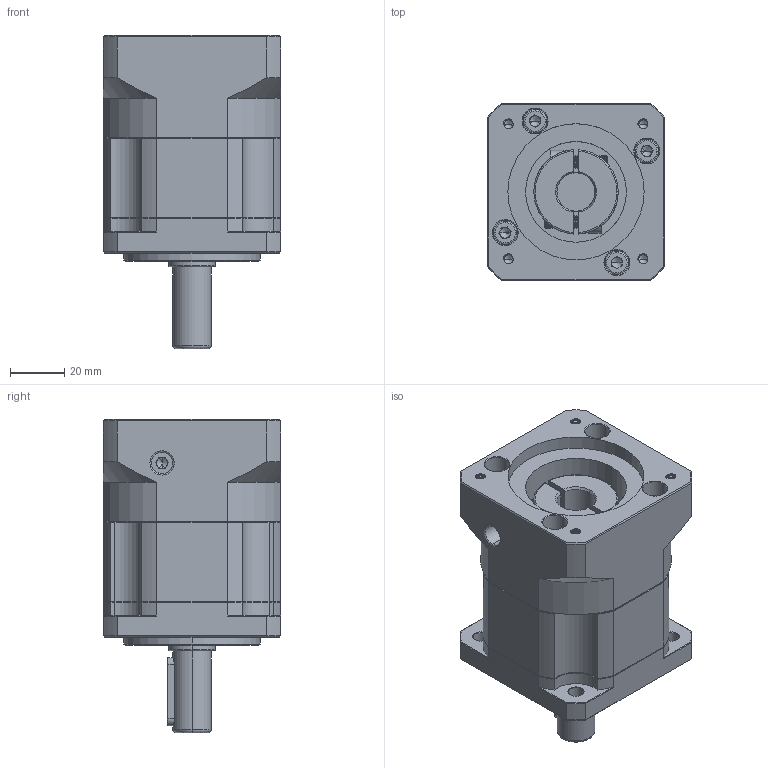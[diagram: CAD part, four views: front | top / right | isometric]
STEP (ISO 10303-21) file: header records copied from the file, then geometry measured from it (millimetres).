
FILE_DESCRIPTION (( 'STEP AP214' ), '1' );
FILE_NAME ('ZB060-D14-L1-P2-14-50-70-M4.step', '2023-08-16T06:59:33', ( '' ), ( '' ), 'SwSTEP 2.0', 'SolidWorks 2016', '' );
FILE_SCHEMA (( 'AUTOMOTIVE_DESIGN' ));
Length unit declared in the file: millimetre
Products named in the file (1): ZB060-D14-L1-P2-14-50-70-M4
Bounding box: 65 x 65 x 115 mm (x, y, z)
Volume: 268939.3 mm3; surface area: 54371.3 mm2
Topology: 6 solids, 6 shells, 2142 faces, 5766 edges, 3712 vertices
Faces by surface type: plane 1059, bspline 397, cylinder 371, cone 279, torus 36
Entity records: 113522 total; most frequent: CARTESIAN_POINT 39289, ORIENTED_EDGE 11472, DIRECTION 9052, EDGE_CURVE 5736, VERTEX_POINT 3712, VECTOR 3622, LINE 3622, AXIS2_PLACEMENT_3D 2715
